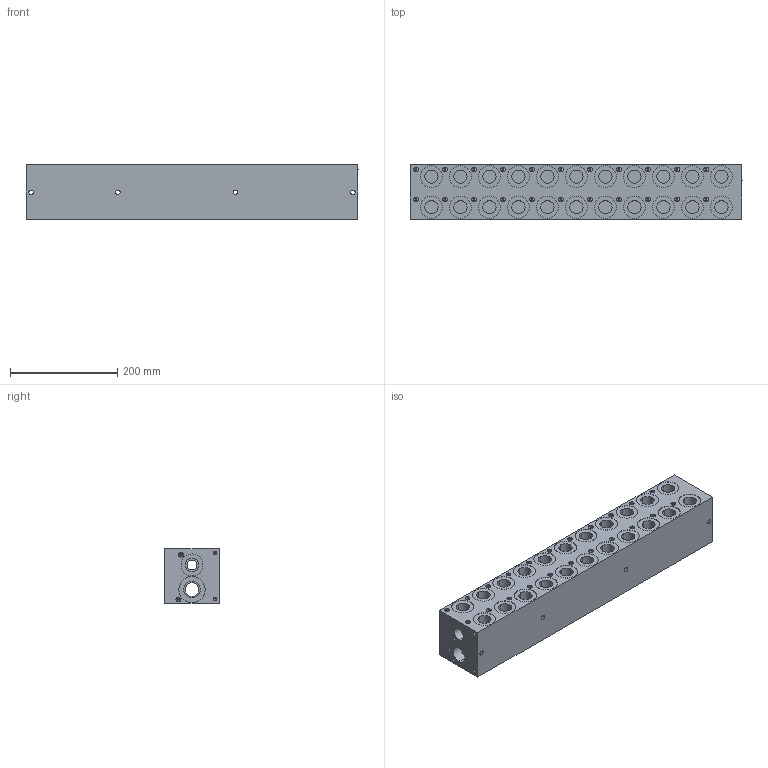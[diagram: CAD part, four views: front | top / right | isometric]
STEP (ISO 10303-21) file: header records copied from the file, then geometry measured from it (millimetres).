
FILE_DESCRIPTION (( 'STEP AP203' ), '1' );
FILE_NAME ('BMR-AHP03S2-11-1_Z.STEP', '2015-01-06T15:25:58', ( '' ), ( '' ), 'SwSTEP 2.0', 'SolidWorks 2014', '' );
FILE_SCHEMA (( 'CONFIG_CONTROL_DESIGN' ));
Products named in the file (1): BMR-AHP03S2-11-1_Z
Bounding box: 619.25 x 101.6 x 101.6 mm (x, y, z)
Volume: 5624501.3 mm3; surface area: 419183.2 mm2
Topology: 1 solids, 1 shells, 1288 faces, 3073 edges, 1877 vertices
Faces by surface type: plane 493, cylinder 470, cone 206, bspline 119
Entity records: 42472 total; most frequent: CARTESIAN_POINT 13568, DIRECTION 5909, ORIENTED_EDGE 5734, EDGE_CURVE 2867, AXIS2_PLACEMENT_3D 2110, VERTEX_POINT 1877, VECTOR 1689, LINE 1689
